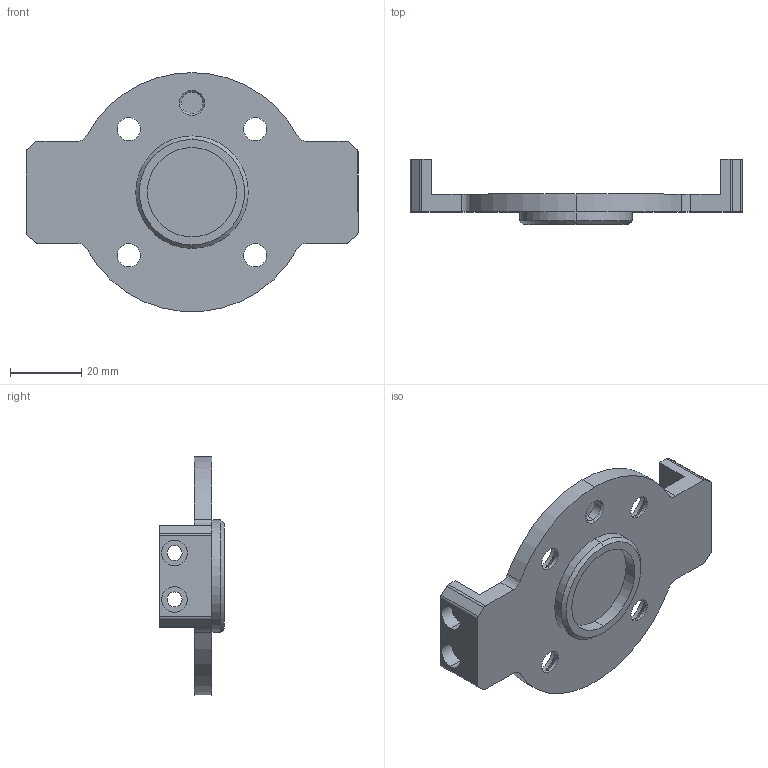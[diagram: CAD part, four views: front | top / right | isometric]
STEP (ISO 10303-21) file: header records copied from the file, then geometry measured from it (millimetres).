
FILE_DESCRIPTION (( 'STEP AP203' ), '1' );
FILE_NAME ('·¨À¼-AG160-AG105.STEP', '2023-09-23T04:25:43', ( '' ), ( '' ), 'SwSTEP 2.0', 'SolidWorks 2020', '' );
FILE_SCHEMA (( 'CONFIG_CONTROL_DESIGN' ));
Length unit declared in the file: millimetre
Products named in the file (1): 楊擘-AG160-AG105
Bounding box: 93 x 18.2 x 66.89 mm (x, y, z)
Volume: 23336.6 mm3; surface area: 12392.2 mm2
Topology: 1 solids, 1 shells, 98 faces, 237 edges, 150 vertices
Faces by surface type: cylinder 57, plane 25, cone 16
Entity records: 3000 total; most frequent: DIRECTION 557, CARTESIAN_POINT 486, ORIENTED_EDGE 474, EDGE_CURVE 237, AXIS2_PLACEMENT_3D 221, VERTEX_POINT 150, EDGE_LOOP 123, CIRCLE 122
